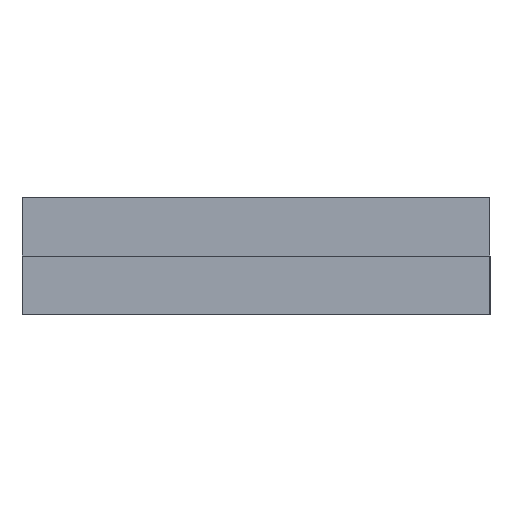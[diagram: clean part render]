
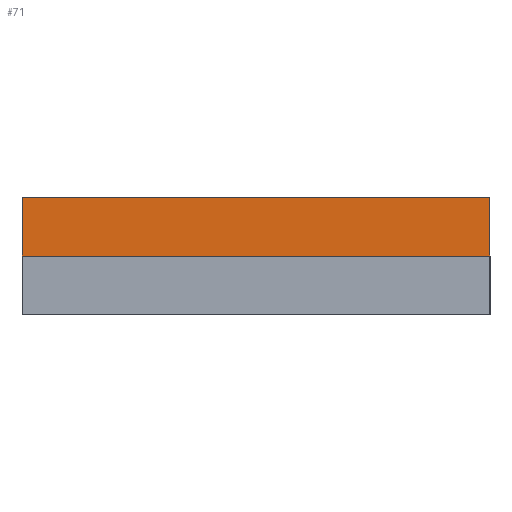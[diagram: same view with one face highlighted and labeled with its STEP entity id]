
A CAD part, left-side view. The second image highlights one B-rep face of the part: STEP entity #71.
In plain terms, the highlighted planar face has unit normal (-1, 0, 0).
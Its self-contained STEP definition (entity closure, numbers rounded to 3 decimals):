
#35=AXIS2_PLACEMENT_3D('Plane Axis2P3D',#32,#33,#34) ;
#32=CARTESIAN_POINT('Axis2P3D Location',(-24.,20.,5.)) ;
#37=CARTESIAN_POINT('Line Origine',(-24.,20.,7.5)) ;
#41=CARTESIAN_POINT('Vertex',(-24.,20.,5.)) ;
#43=CARTESIAN_POINT('Vertex',(-24.,20.,10.)) ;
#46=CARTESIAN_POINT('Line Origine',(-24.,0.,5.)) ;
#50=CARTESIAN_POINT('Vertex',(-24.,-20.,5.)) ;
#53=CARTESIAN_POINT('Line Origine',(-24.,-20.,7.5)) ;
#57=CARTESIAN_POINT('Vertex',(-24.,-20.,10.)) ;
#60=CARTESIAN_POINT('Line Origine',(-24.,0.,10.)) ;
#33=DIRECTION('Axis2P3D Direction',(-1.,0.,0.)) ;
#34=DIRECTION('Axis2P3D XDirection',(0.,-1.,0.)) ;
#38=DIRECTION('Vector Direction',(0.,0.,1.)) ;
#47=DIRECTION('Vector Direction',(0.,-1.,0.)) ;
#54=DIRECTION('Vector Direction',(0.,0.,1.)) ;
#61=DIRECTION('Vector Direction',(0.,-1.,0.)) ;
#39=VECTOR('Line Direction',#38,1.) ;
#48=VECTOR('Line Direction',#47,1.) ;
#55=VECTOR('Line Direction',#54,1.) ;
#62=VECTOR('Line Direction',#61,1.) ;
#66=ORIENTED_EDGE('',*,*,#45,.F.) ;
#67=ORIENTED_EDGE('',*,*,#52,.T.) ;
#68=ORIENTED_EDGE('',*,*,#59,.T.) ;
#69=ORIENTED_EDGE('',*,*,#64,.F.) ;
#71=ADVANCED_FACE('\X2\96F64EF651E04F554F53\X0\',(#70),#36,.T.) ;
#45=EDGE_CURVE('',#42,#44,#40,.T.) ;
#52=EDGE_CURVE('',#42,#51,#49,.T.) ;
#59=EDGE_CURVE('',#51,#58,#56,.T.) ;
#64=EDGE_CURVE('',#44,#58,#63,.T.) ;
#65=EDGE_LOOP('',(#66,#67,#68,#69)) ;
#70=FACE_OUTER_BOUND('',#65,.T.) ;
#40=LINE('Line',#37,#39) ;
#49=LINE('Line',#46,#48) ;
#56=LINE('Line',#53,#55) ;
#63=LINE('Line',#60,#62) ;
#36=PLANE('Plane',#35) ;
#42=VERTEX_POINT('',#41) ;
#44=VERTEX_POINT('',#43) ;
#51=VERTEX_POINT('',#50) ;
#58=VERTEX_POINT('',#57) ;
